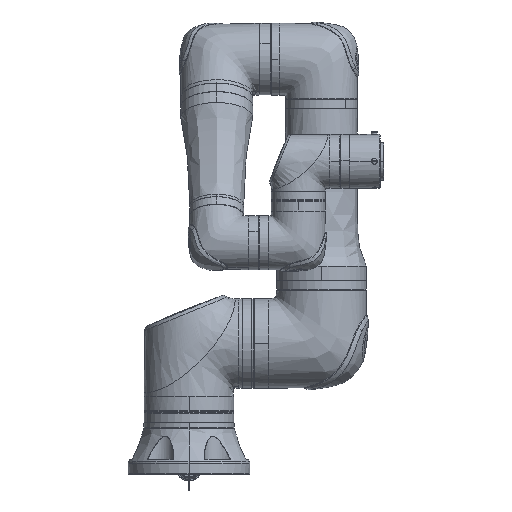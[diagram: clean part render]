
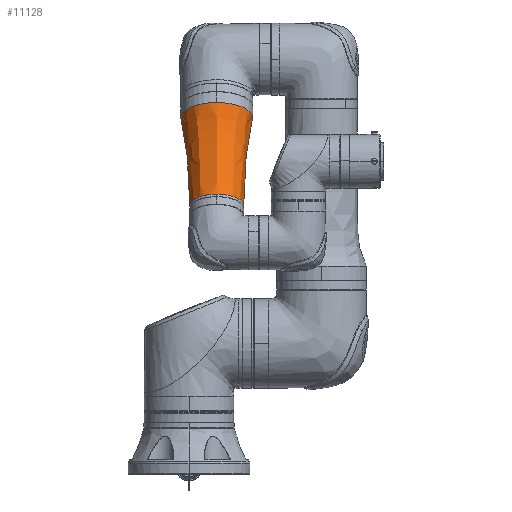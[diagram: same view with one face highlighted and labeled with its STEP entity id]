
A CAD part, top view. The second image highlights one B-rep face of the part: STEP entity #11128.
In plain terms, the highlighted free-form (B-spline) face has degree [6, 3] with [7, 4] control points.
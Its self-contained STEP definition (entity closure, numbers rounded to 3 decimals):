
#3227 = DIRECTION ( 'NONE',  ( 1., 0., 0. ) ) ;
#4284 = AXIS2_PLACEMENT_3D ( 'NONE', #122849, #47378, #35443 ) ;
#6750 = CARTESIAN_POINT ( 'NONE',  ( 108.36, 834.6, -7.88 ) ) ;
#7367 = CARTESIAN_POINT ( 'NONE',  ( 90., 963.7, 91.3 ) ) ;
#7996 = CARTESIAN_POINT ( 'NONE',  ( 0., 913.6, -1.7 ) ) ;
#11128 = ADVANCED_FACE ( 'NONE', ( #70935 ), #60899, .F. ) ;
#13535 = EDGE_CURVE ( 'NONE', #105692, #109799, #39681, .T. ) ;
#13637 = CARTESIAN_POINT ( 'NONE',  ( 0., 963.7, 1.3 ) ) ;
#13764 = CARTESIAN_POINT ( 'NONE',  ( 0., 963.7, 46.3 ) ) ;
#13966 = DIRECTION ( 'NONE',  ( 0., 1., 0. ) ) ;
#15852 = DIRECTION ( 'NONE',  ( 1., 0., 0. ) ) ;
#16180 = CARTESIAN_POINT ( 'NONE',  ( 90., 953.4, 91.3 ) ) ;
#16552 = VERTEX_POINT ( 'NONE', #123361 ) ;
#17427 = CARTESIAN_POINT ( 'NONE',  ( 0., 853.4, -1.94 ) ) ;
#17599 = ORIENTED_EDGE ( 'NONE', *, *, #78465, .T. ) ;
#22444 = CARTESIAN_POINT ( 'NONE',  ( 0., 913.6, 94.3 ) ) ;
#22464 = EDGE_CURVE ( 'NONE', #77930, #78138, #53867, .T. ) ;
#23088 = CARTESIAN_POINT ( 'NONE',  ( 0., 834.6, -7.88 ) ) ;
#23208 = DIRECTION ( 'NONE',  ( 1., 0., 0. ) ) ;
#23498 = ORIENTED_EDGE ( 'NONE', *, *, #25441, .T. ) ;
#23691 = CARTESIAN_POINT ( 'NONE',  ( 0., 844.3, 97.12 ) ) ;
#25441 = EDGE_CURVE ( 'NONE', #51273, #16552, #55409, .T. ) ;
#25614 = CARTESIAN_POINT ( 'NONE',  ( 120., 801.6, -13.7 ) ) ;
#26863 = CARTESIAN_POINT ( 'NONE',  ( 120., 801.6, 106.3 ) ) ;
#31877 = CARTESIAN_POINT ( 'NONE',  ( 0., 801.6, 106.3 ) ) ;
#32519 = CARTESIAN_POINT ( 'NONE',  ( 0., 844.3, -4.52 ) ) ;
#34754 = CARTESIAN_POINT ( 'NONE',  ( 0., 963.7, 46.3 ) ) ;
#35077 = CARTESIAN_POINT ( 'NONE',  ( 0., 844.3, 97.12 ) ) ;
#35443 = DIRECTION ( 'NONE',  ( 1., 0., 0. ) ) ;
#35695 = CARTESIAN_POINT ( 'NONE',  ( 90., 953.4, 1.3 ) ) ;
#38732 = CARTESIAN_POINT ( 'NONE',  ( 0., 801.6, -13.7 ) ) ;
#39681 = CIRCLE ( 'NONE', #109966, 45. ) ;
#45151 = CARTESIAN_POINT ( 'NONE',  ( 0., 801.6, -13.7 ) ) ;
#46385 = CARTESIAN_POINT ( 'NONE',  ( 0., 953.4, 91.3 ) ) ;
#47378 = DIRECTION ( 'NONE',  ( 0., 1., 0. ) ) ;
#51273 = VERTEX_POINT ( 'NONE', #101237 ) ;
#53340 = CARTESIAN_POINT ( 'NONE',  ( 96.48, 853.4, -1.94 ) ) ;
#53379 = CARTESIAN_POINT ( 'NONE',  ( 0., 963.7, 1.3 ) ) ;
#53867 = B_SPLINE_CURVE_WITH_KNOTS ( 'NONE', 6,
 ( #63964, #23088, #32519, #61490, #99796, #73392, #13637 ),
 .UNSPECIFIED., .F., .F.,
 ( 7, 7 ),
 ( 0., 1. ),
 .UNSPECIFIED. ) ;
#55202 = CARTESIAN_POINT ( 'NONE',  ( 108.36, 834.6, 100.48 ) ) ;
#55409 = CIRCLE ( 'NONE', #69371, 60. ) ;
#55824 = CARTESIAN_POINT ( 'NONE',  ( 0., 963.7, 1.3 ) ) ;
#56157 = EDGE_CURVE ( 'NONE', #109799, #78138, #100192, .T. ) ;
#60899 =( BOUNDED_SURFACE ( )  B_SPLINE_SURFACE ( 6, 3, ( 
 ( #94144, #26863, #25614, #45151 ),
 ( #72817, #55202, #6750, #93532 ),
 ( #35077, #64005, #113034, #92268 ),
 ( #102327, #83480, #53340, #17427 ),
 ( #121846, #111165, #102971, #7996 ),
 ( #46385, #16180, #35695, #65267 ),
 ( #121233, #7367, #103595, #55824 ) ),
 .UNSPECIFIED., .F., .F., .T. ) 
 B_SPLINE_SURFACE_WITH_KNOTS ( ( 7, 7 ),
 ( 4, 4 ),
 ( 0., 1. ),
 ( 0., 1. ),
 .UNSPECIFIED. ) 
 GEOMETRIC_REPRESENTATION_ITEM ( )  RATIONAL_B_SPLINE_SURFACE ( (
 ( 1., 0.333, 0.333, 1.),
 ( 1., 0.333, 0.333, 1.),
 ( 1., 0.333, 0.333, 1.),
 ( 1., 0.333, 0.333, 1.),
 ( 1., 0.333, 0.333, 1.),
 ( 1., 0.333, 0.333, 1.),
 ( 1., 0.333, 0.333, 1.) ) ) 
 REPRESENTATION_ITEM ( '' )  SURFACE ( )  );
#61490 = CARTESIAN_POINT ( 'NONE',  ( 0., 853.4, -1.94 ) ) ;
#62091 = CARTESIAN_POINT ( 'NONE',  ( 0., 953.4, 91.3 ) ) ;
#63964 = CARTESIAN_POINT ( 'NONE',  ( 0., 801.6, -13.7 ) ) ;
#64005 = CARTESIAN_POINT ( 'NONE',  ( 101.64, 844.3, 97.12 ) ) ;
#64132 = ORIENTED_EDGE ( 'NONE', *, *, #22464, .T. ) ;
#65011 = EDGE_LOOP ( 'NONE', ( #101554, #23498, #17599, #64132, #85032, #92153 ) ) ;
#65267 = CARTESIAN_POINT ( 'NONE',  ( 0., 953.4, 1.3 ) ) ;
#69371 = AXIS2_PLACEMENT_3D ( 'NONE', #89399, #70538, #3227 ) ;
#70237 = CARTESIAN_POINT ( 'NONE',  ( 0., 834.6, 100.48 ) ) ;
#70538 = DIRECTION ( 'NONE',  ( 0., 1., 0. ) ) ;
#70935 = FACE_OUTER_BOUND ( 'NONE', #65011, .T. ) ;
#72817 = CARTESIAN_POINT ( 'NONE',  ( 0., 834.6, 100.48 ) ) ;
#73392 = CARTESIAN_POINT ( 'NONE',  ( 0., 953.4, 1.3 ) ) ;
#77930 = VERTEX_POINT ( 'NONE', #38732 ) ;
#78138 = VERTEX_POINT ( 'NONE', #53379 ) ;
#78465 = EDGE_CURVE ( 'NONE', #16552, #77930, #86645, .T. ) ;
#80943 = CARTESIAN_POINT ( 'NONE',  ( 45., 963.7, 46.3 ) ) ;
#83480 = CARTESIAN_POINT ( 'NONE',  ( 96.48, 853.4, 94.54 ) ) ;
#85032 = ORIENTED_EDGE ( 'NONE', *, *, #56157, .F. ) ;
#86645 = CIRCLE ( 'NONE', #4284, 60. ) ;
#89399 = CARTESIAN_POINT ( 'NONE',  ( 0., 801.6, 46.3 ) ) ;
#92153 = ORIENTED_EDGE ( 'NONE', *, *, #13535, .F. ) ;
#92268 = CARTESIAN_POINT ( 'NONE',  ( 0., 844.3, -4.52 ) ) ;
#93532 = CARTESIAN_POINT ( 'NONE',  ( 0., 834.6, -7.88 ) ) ;
#93985 = EDGE_CURVE ( 'NONE', #51273, #105692, #97876, .T. ) ;
#94144 = CARTESIAN_POINT ( 'NONE',  ( 0., 801.6, 106.3 ) ) ;
#97876 = B_SPLINE_CURVE_WITH_KNOTS ( 'NONE', 6,
 ( #31877, #70237, #23691, #109237, #22444, #62091, #110471 ),
 .UNSPECIFIED., .F., .F.,
 ( 7, 7 ),
 ( 0., 1. ),
 .UNSPECIFIED. ) ;
#99796 = CARTESIAN_POINT ( 'NONE',  ( 0., 913.6, -1.7 ) ) ;
#100192 = CIRCLE ( 'NONE', #116257, 45. ) ;
#101169 = DIRECTION ( 'NONE',  ( 0., 1., 0. ) ) ;
#101237 = CARTESIAN_POINT ( 'NONE',  ( 0., 801.6, 106.3 ) ) ;
#101554 = ORIENTED_EDGE ( 'NONE', *, *, #93985, .F. ) ;
#102327 = CARTESIAN_POINT ( 'NONE',  ( 0., 853.4, 94.54 ) ) ;
#102971 = CARTESIAN_POINT ( 'NONE',  ( 96., 913.6, -1.7 ) ) ;
#103595 = CARTESIAN_POINT ( 'NONE',  ( 90., 963.7, 1.3 ) ) ;
#105692 = VERTEX_POINT ( 'NONE', #119052 ) ;
#109237 = CARTESIAN_POINT ( 'NONE',  ( 0., 853.4, 94.54 ) ) ;
#109799 = VERTEX_POINT ( 'NONE', #80943 ) ;
#109966 = AXIS2_PLACEMENT_3D ( 'NONE', #34754, #13966, #15852 ) ;
#110471 = CARTESIAN_POINT ( 'NONE',  ( 0., 963.7, 91.3 ) ) ;
#111165 = CARTESIAN_POINT ( 'NONE',  ( 96., 913.6, 94.3 ) ) ;
#113034 = CARTESIAN_POINT ( 'NONE',  ( 101.64, 844.3, -4.52 ) ) ;
#116257 = AXIS2_PLACEMENT_3D ( 'NONE', #13764, #101169, #23208 ) ;
#119052 = CARTESIAN_POINT ( 'NONE',  ( 0., 963.7, 91.3 ) ) ;
#121233 = CARTESIAN_POINT ( 'NONE',  ( 0., 963.7, 91.3 ) ) ;
#121846 = CARTESIAN_POINT ( 'NONE',  ( 0., 913.6, 94.3 ) ) ;
#122849 = CARTESIAN_POINT ( 'NONE',  ( 0., 801.6, 46.3 ) ) ;
#123361 = CARTESIAN_POINT ( 'NONE',  ( 60., 801.6, 46.3 ) ) ;
